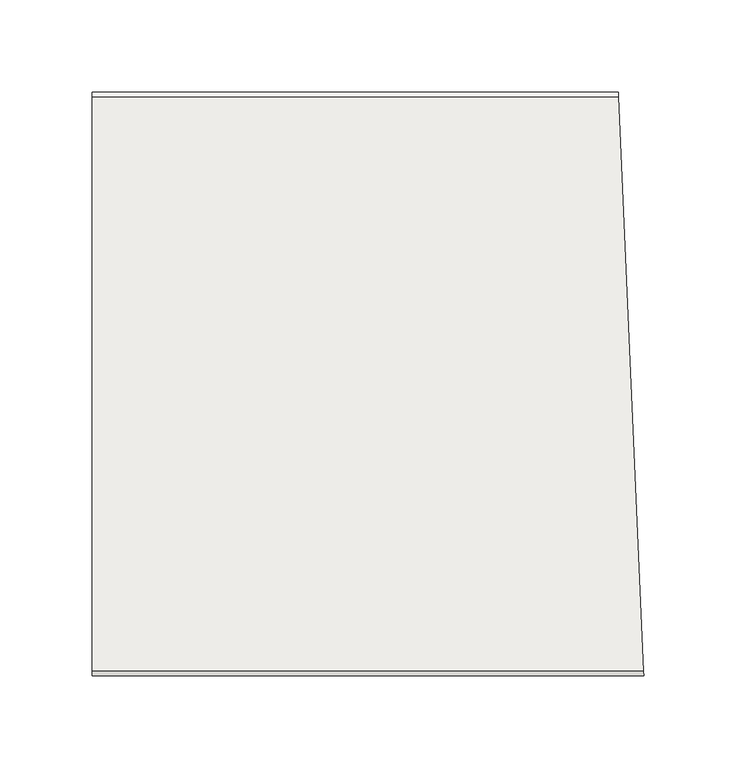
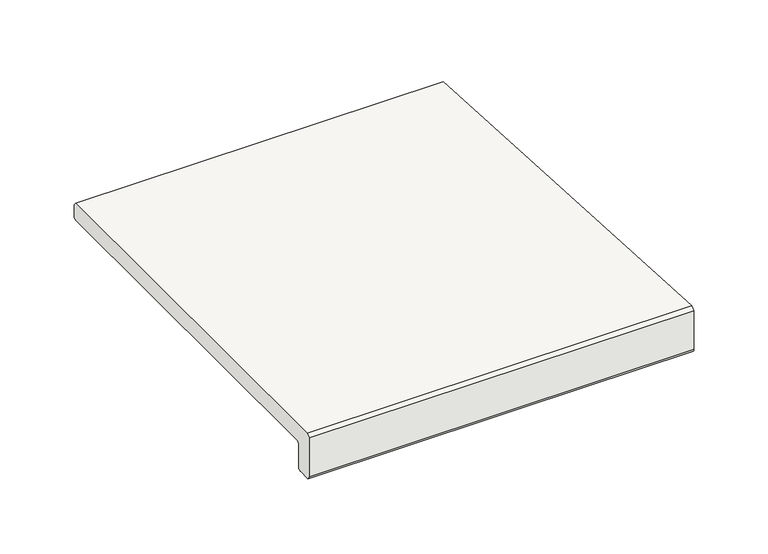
"""IFC4 building model written with IfcOpenShell, lengths in millimetres: slab geometry, ROSA GRES_L62 (corte) : Pieza L62_Serena_Ocra_Anti-Slip."""

from ifc_helpers import new_model, si_unit, frame, origin, place, context, project, spatial, polyline, circle_curve, ellipse_curve, source, transform, mapped, element, save
from ifc_brep_helpers import plane_surface, cylinder_surface, revolved_surface, advanced_brep


def slab_325f490a(model_context):
    return source(origin(), model_context, "Body", "AdvancedBrep", [
        advanced_brep(
        [(0.0, 0.0, -20.5), (0.0, 0.0, 11.5), (0.0, 2.5, 14.0), (0.0, 314.5, 14.0), (0.0, 317.0, 11.5), (0.0, 317.0, 2.5), (0.0, 314.5, 0.0), (0.0, 16.5, 0.0), (0.0, 14.0, -2.5), (0.0, 14.0, -20.5), (0.0, 11.5, -23.0), (0.0, 2.5, -23.0), (299.7816953, 0.0, 11.5), (299.6725429, 2.5, 14.0), (286.0503287, 314.5, 14.0), (285.9411764, 317.0, 11.5), (299.2795944, 11.5, -23.0), (299.6725429, 2.5, -23.0), (285.9411764, 317.0, 2.5), (286.0503287, 314.5, 0.0), (299.7816953, 0.0, -20.5), (299.1704421, 14.0, -20.5), (299.0612897, 16.5, 0.0), (299.1704421, 14.0, -2.5)],
        [
            (0, 1),
            (1, 2),
            (2, 3),
            (3, 4),
            (4, 5),
            (5, 6, circle_curve(frame((0.0, 314.5, 2.5), z_axis=(-1.0, 0.0, 0.0), x_axis=(0.0, 0.0, -1.0)), 2.5)),
            (6, 7),
            (7, 8, circle_curve(frame((0.0, 16.5, -2.5), z_axis=(1.0, 0.0, 0.0), x_axis=(0.0, 0.0, -1.0)), 2.5)),
            (8, 9),
            (9, 10, circle_curve(frame((0.0, 11.5, -20.5), z_axis=(-1.0, 0.0, 0.0), x_axis=(0.0, 0.0, -1.0)), 2.5)),
            (10, 11),
            (11, 0, circle_curve(frame((0.0, 2.5, -20.5), z_axis=(-1.0, 0.0, 0.0), x_axis=(0.0, 0.0, -1.0)), 2.5)),
            (1, 12),
            (12, 13),
            (13, 2),
            (3, 14),
            (14, 15),
            (15, 4),
            (10, 16),
            (16, 17),
            (17, 11),
            (5, 18),
            (18, 19, ellipse_curve(frame((286.0503287, 314.5, 2.5), z_axis=(-0.9990482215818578, -0.04361938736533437, 0.0), x_axis=(-0.04361938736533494, 0.9990482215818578, 0.0)), 2.5023817, 2.5)),
            (19, 6),
            (15, 18),
            (0, 20),
            (20, 12),
            (17, 20, ellipse_curve(frame((299.6725429, 2.5, -20.5), z_axis=(-0.9990482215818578, -0.04361938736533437, 0.0), x_axis=(-0.04361938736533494, 0.9990482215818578, 0.0)), 2.5023817, 2.5)),
            (9, 21),
            (21, 16, ellipse_curve(frame((299.2795944, 11.5, -20.5), z_axis=(-0.9990482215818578, -0.04361938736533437, 0.0), x_axis=(-0.04361938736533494, 0.9990482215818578, 0.0)), 2.5023817, 2.5)),
            (13, 14),
            (19, 22),
            (22, 7),
            (22, 23, ellipse_curve(frame((299.0612897, 16.5, -2.5), z_axis=(0.9990482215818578, 0.04361938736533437, 0.0), x_axis=(0.04361938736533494, -0.9990482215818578, 0.0)), 2.5023817, 2.5)),
            (23, 8),
            (23, 21),
        ],
        [
            plane_surface(frame((0.0, 0.0, 0.0), z_axis=(-1.0, 0.0, 0.0), x_axis=(0.0, 0.0, 1.0))),
            plane_surface(frame((0.0, 0.0, 11.5), z_axis=(0.0, -0.707106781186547, 0.7071067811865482), x_axis=(1.0, 0.0, 0.0))),
            plane_surface(frame((0.0, 314.5, 14.0), z_axis=(0.0, 0.707106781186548, 0.707106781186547), x_axis=(1.0, 0.0, 0.0))),
            plane_surface(frame((0.0, 11.5, -23.0), z_axis=(0.0, 0.0, -1.0), x_axis=(1.0, 0.0, 0.0))),
            cylinder_surface(frame((0.0, 314.5, 2.5), z_axis=(-1.0, 0.0, 0.0), x_axis=(0.0, 0.0, -1.0)), 2.5),
            plane_surface(frame((0.0, 317.0, 11.5), z_axis=(0.0, 1.0, 0.0), x_axis=(1.0, 0.0, 0.0))),
            plane_surface(frame((0.0, 0.0, -20.5), z_axis=(0.0, -1.0, 0.0), x_axis=(1.0, 0.0, 0.0))),
            cylinder_surface(frame((0.0, 2.5, -20.5), z_axis=(-1.0, 0.0, 0.0), x_axis=(0.0, 0.0, -1.0)), 2.5),
            cylinder_surface(frame((0.0, 11.5, -20.5), z_axis=(-1.0, 0.0, 0.0), x_axis=(0.0, 0.0, -1.0)), 2.5),
            plane_surface(frame((0.0, 2.5, 14.0), z_axis=(0.0, 0.0, 1.0), x_axis=(1.0, 0.0, 0.0))),
            plane_surface(frame((0.0, 314.5, 0.0), z_axis=(0.0, 0.0, -1.0), x_axis=(1.0, 0.0, 0.0))),
            revolved_surface(polyline([(299.1704421, 16.5, -5.0), (0.0, 16.5, -5.0)]), (0.0, 16.5, -2.5), (1.0, 0.0, 0.0)),
            plane_surface(frame((0.0, 14.0, -2.5), z_axis=(0.0, 1.0, 0.0), x_axis=(1.0, 0.0, 0.0))),
            plane_surface(frame((285.7228717, 322.0, 86.9871832), z_axis=(0.9990482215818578, 0.04361938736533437, 0.0), x_axis=(0.0, 0.0, -1.0))),
        ],
        [
            (0, [[1, 2, 3, 4, 5, 6, 7, 8, 9, 10, 11, 12]]),
            (1, [[-2, 13, 14, 15]]),
            (2, [[-4, 16, 17, 18]]),
            (3, [[-11, 19, 20, 21]]),
            (4, [[-6, 22, 23, 24]]),
            (5, [[-5, -18, 25, -22]]),
            (6, [[-1, 26, 27, -13]]),
            (7, [[-12, -21, 28, -26]]),
            (8, [[-10, 29, 30, -19]]),
            (9, [[-3, -15, 31, -16]]),
            (10, [[-7, -24, 32, 33]]),
            (11, [[-8, -33, 34, 35]]),
            (12, [[-9, -35, 36, -29]]),
            (13, [[-27, -28, -20, -30, -36, -34, -32, -23, -25, -17, -31, -14]]),
        ],
    ),
    ])


if __name__ == "__main__":
    model = new_model("IFC4")
    model_context = context("Model", 3, world=origin())
    ifc_project = project(units=[si_unit("LENGTHUNIT", "METRE", prefix="MILLI")], contexts=[model_context])
    site = spatial("IfcSite", under=ifc_project)
    building = spatial("IfcBuilding", under=site)
    placement = place(None, origin())
    slab_shape = slab_325f490a(model_context)
    element("IfcSlab", 1, ObjectType="ROSA GRES_L62 (corte) : Pieza L62_Serena_Ocra_Anti-Slip", at=placement, inside=building, context=model_context, shape_type="MappedRepresentation", body=[
        mapped(slab_shape, transform((0.0, 0.0, 0.0), x_axis=(1.0, 0.0, 0.0), y_axis=(0.0, 1.0, 0.0), z_axis=(0.0, 0.0, 1.0))),
    ])
    save(model, "model.ifc")
